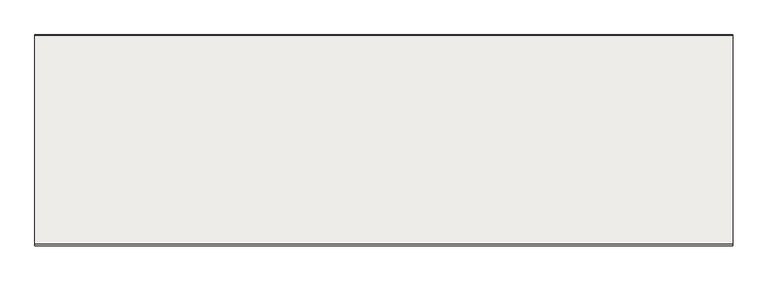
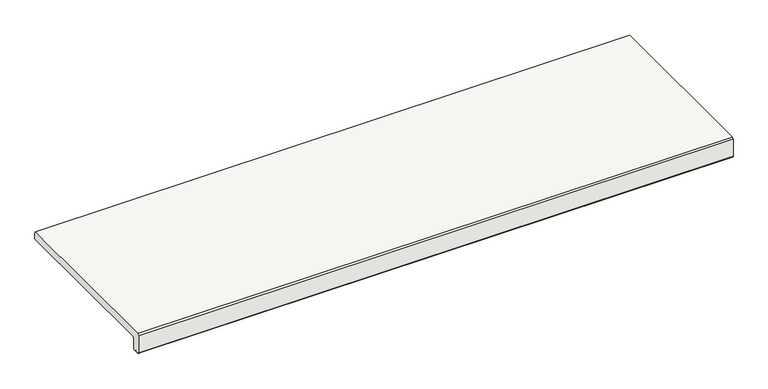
"""IFC4 building model written with IfcOpenShell, lengths in millimetres: slab geometry, ROSA GRES_L62 : Pieza L62_Tao_Beige_Anti-Slip."""

import ifcopenshell
import ifcopenshell.guid

model = None  # the IFC model being written
_history = None  # IfcOwnerHistory: only IFC2X3 demands one
_inside = {}  # id of a spatial element -> (the spatial element, [elements in it])
_under = {}  # id of a project, library or spatial element -> (it, [spatial elements below it])
_declared = {}  # id of a project -> (the project, [libraries it declares])
_typed = {}  # id of a type object -> (the type object, [elements of that type])
_made_of = {}  # id of a material, layer set ... -> (it, [elements and type objects made of it])


def new_model(schema):
    """Start an empty IFC model of exactly this schema.

    Asked for "IFC4X3", IfcOpenShell would pick the latest addendum, in which some entities
    have other attributes; the version numbers below select the first issue.
    IFC2X3 requires an IfcOwnerHistory on every rooted entity: one is made here for all.
    """
    global model, _history
    if schema == "IFC4X3":
        model = ifcopenshell.file(schema_version=(4, 3, 0, 0))
    else:
        model = ifcopenshell.file(schema=schema)
    _inside.clear()
    _under.clear()
    _declared.clear()
    _typed.clear()
    _made_of.clear()
    _history = None
    if model.schema == "IFC2X3":
        org = make("IfcOrganization", Name="unknown")
        user = make(
            "IfcPersonAndOrganization",
            ThePerson=make("IfcPerson", FamilyName="unknown"),
            TheOrganization=org,
        )
        app = make(
            "IfcApplication",
            ApplicationDeveloper=org,
            Version="unknown",
            ApplicationFullName="unknown",
            ApplicationIdentifier="unknown",
        )
        _history = make(
            "IfcOwnerHistory",
            OwningUser=user,
            OwningApplication=app,
            ChangeAction="ADDED",
            CreationDate=0,
        )
    return model


def make(cls, **values):
    """One entity of the class cls with the attributes given. An attribute that is None is left unset."""
    return model.create_entity(
        cls, **{name: value for name, value in values.items() if value is not None}
    )


def rooted(cls, **values):
    """An entity with a GlobalId (a new one), such as an element, a storey or a relation."""
    return make(cls, GlobalId=ifcopenshell.guid.new(), OwnerHistory=_history, **values)


def si_unit(unit_type, name, prefix=None):
    """IfcSIUnit, for example si_unit("LENGTHUNIT", "METRE", prefix="MILLI")."""
    return make("IfcSIUnit", UnitType=unit_type, Prefix=prefix, Name=name)


def assignment(units):
    """IfcUnitAssignment: the units of a project."""
    return None if units is None else make("IfcUnitAssignment", Units=units)


def point(xyz):
    """IfcCartesianPoint."""
    return None if xyz is None else make("IfcCartesianPoint", Coordinates=xyz)


def direction(xyz):
    """IfcDirection."""
    return None if xyz is None else make("IfcDirection", DirectionRatios=xyz)


def frame(location, z_axis=None, x_axis=None):
    """IfcAxis2Placement3D, a coordinate frame: its origin and axes. An axis left out is left unset."""
    return make(
        "IfcAxis2Placement3D",
        Location=point(location),
        Axis=direction(z_axis),
        RefDirection=direction(x_axis),
    )


def frame_2d(location, x_axis=None):
    """IfcAxis2Placement2D, a coordinate frame in the plane: its origin and x axis."""
    return make(
        "IfcAxis2Placement2D", Location=point(location), RefDirection=direction(x_axis)
    )


def origin():
    """The frame at (0, 0, 0) with its axes left unset."""
    return frame((0.0, 0.0, 0.0))


def place(relative_to, where):
    """IfcLocalPlacement: puts the frame where relative to a parent placement (None: the world)."""
    return make(
        "IfcLocalPlacement", PlacementRelTo=relative_to, RelativePlacement=where
    )


def context(
    kind, dimensions, precision=None, world=None, true_north=None, identifier=None
):
    """IfcGeometricRepresentationContext, for example the 3D "Model" context."""
    return make(
        "IfcGeometricRepresentationContext",
        ContextIdentifier=identifier,
        ContextType=kind,
        CoordinateSpaceDimension=dimensions,
        Precision=precision,
        WorldCoordinateSystem=world,
        TrueNorth=true_north,
    )


def project(units=None, contexts=None):
    """IfcProject with its units and contexts."""
    return rooted(
        "IfcProject",
        Name="project",
        RepresentationContexts=contexts,
        UnitsInContext=assignment(units),
    )


def spatial(cls, under=None, at=None, **own):
    """A site, building, storey or space (cls), placed at a placement, below another one or the project."""
    s = rooted(cls, ObjectPlacement=at, **own)
    if under is not None:
        _under.setdefault(under.id(), (under, []))[1].append(s)
    return s


def polyline(points):
    """IfcPolyline through the points."""
    return make("IfcPolyline", Points=[point(p) for p in points])


def circle_curve(where, radius):
    """IfcCircle in the frame where."""
    return make("IfcCircle", Position=where, Radius=radius)


def trimmed(basis, trim1, trim2, sense, master):
    """IfcTrimmedCurve: the piece of a basis curve between two trims."""
    return make(
        "IfcTrimmedCurve",
        BasisCurve=basis,
        Trim1=trim1,
        Trim2=trim2,
        SenseAgreement=sense,
        MasterRepresentation=master,
    )


def segment(curve, same_sense, transition):
    """IfcCompositeCurveSegment."""
    return make(
        "IfcCompositeCurveSegment",
        Transition=transition,
        SameSense=same_sense,
        ParentCurve=curve,
    )


def composite_curve(segments, self_intersect=None):
    """IfcCompositeCurve: segments joined end to end."""
    return make("IfcCompositeCurve", Segments=segments, SelfIntersect=self_intersect)


def outline(outer, holes=None, kind="AREA"):
    """IfcArbitraryClosedProfileDef: a profile drawn as a closed curve; with holes, ...WithVoids."""
    if holes is None:
        return make("IfcArbitraryClosedProfileDef", ProfileType=kind, OuterCurve=outer)
    return make(
        "IfcArbitraryProfileDefWithVoids",
        ProfileType=kind,
        OuterCurve=outer,
        InnerCurves=holes,
    )


def extrude(swept, where, along, depth):
    """IfcExtrudedAreaSolid: the profile swept, set in the frame where, extruded along a direction by depth."""
    return make(
        "IfcExtrudedAreaSolid",
        SweptArea=swept,
        Position=where,
        ExtrudedDirection=direction(along),
        Depth=depth,
    )


def shape(context_of_items, identifier, shape_type, items):
    """IfcShapeRepresentation: the items that make up one representation, for example the "Body"."""
    return make(
        "IfcShapeRepresentation",
        ContextOfItems=context_of_items,
        RepresentationIdentifier=identifier,
        RepresentationType=shape_type,
        Items=items,
    )


def source(mapping_origin, context_of_items, identifier, shape_type, items):
    """IfcRepresentationMap: a shape defined once, which mapped items show again and again."""
    return make(
        "IfcRepresentationMap",
        MappingOrigin=mapping_origin,
        MappedRepresentation=shape(context_of_items, identifier, shape_type, items),
    )


def transform(
    local_origin,
    x_axis=None,
    y_axis=None,
    z_axis=None,
    scale=None,
    scale2=None,
    scale3=None,
    uniform=True,
):
    """IfcCartesianTransformationOperator3D, or its non-uniform kind. x_axis, y_axis, z_axis: its Axis1, 2, 3."""
    if uniform:
        return make(
            "IfcCartesianTransformationOperator3D",
            Axis1=direction(x_axis),
            Axis2=direction(y_axis),
            LocalOrigin=point(local_origin),
            Scale=scale,
            Axis3=direction(z_axis),
        )
    return make(
        "IfcCartesianTransformationOperator3DnonUniform",
        Axis1=direction(x_axis),
        Axis2=direction(y_axis),
        LocalOrigin=point(local_origin),
        Scale=scale,
        Axis3=direction(z_axis),
        Scale2=scale2,
        Scale3=scale3,
    )


def mapped(mapping_source, mapping_target):
    """IfcMappedItem: shows the shape of a source again, moved by a transform."""
    return make(
        "IfcMappedItem", MappingSource=mapping_source, MappingTarget=mapping_target
    )


def made_of(thing, what):
    """Note that an element or type object is made of a material, layer set ...; save() writes the relation."""
    if what is not None:
        _made_of.setdefault(what.id(), (what, []))[1].append(thing)
    return thing


def element(
    cls,
    number,
    at=None,
    inside=None,
    cuts=None,
    type_object=None,
    material=None,
    context=None,
    identifier="Body",
    shape_type=None,
    held_by="IfcProductDefinitionShape",
    body=None,
    shapes=None,
    **own,
):
    """One element of the class cls, such as IfcWall. Its Tag is "e" and its number.

    at: its placement. inside: the storey or other place that contains it. cuts: it is an
    opening in that element (IfcRelVoidsElement). A single representation is given by context,
    identifier, shape_type and body (its items); several are given by shapes. held_by: the class
    of the entity that holds the representations. save() writes the other relations.
    """
    e = rooted(cls, Tag="e%d" % number, ObjectPlacement=at, **own)
    if body is not None:
        shapes = [shape(context, identifier, shape_type, body)]
    if shapes is not None:
        e.Representation = make(held_by, Representations=shapes)
    if inside is not None:
        _inside.setdefault(inside.id(), (inside, []))[1].append(e)
    if cuts is not None:
        rooted(
            "IfcRelVoidsElement", RelatingBuildingElement=cuts, RelatedOpeningElement=e
        )
    if type_object is not None:
        _typed.setdefault(type_object.id(), (type_object, []))[1].append(e)
    return made_of(e, material)


def aggregate(whole, parts):
    """IfcRelAggregates: a whole, such as a stair, and the parts it consists of."""
    return rooted("IfcRelAggregates", RelatingObject=whole, RelatedObjects=parts)


def save(model, path):
    """Write the relations noted so far, then the file.

    IfcRelAggregates (storeys below a building ...), IfcRelContainedInSpatialStructure (elements
    in a storey), IfcRelDefinesByType, IfcRelAssociatesMaterial and IfcRelDeclares: one each for
    every whole, place, type object, material and project.
    """
    for whole, parts in _under.values():
        aggregate(whole, parts)
    for where, things in _inside.values():
        rooted(
            "IfcRelContainedInSpatialStructure",
            RelatedElements=things,
            RelatingStructure=where,
        )
    for kind, things in _typed.values():
        rooted("IfcRelDefinesByType", RelatedObjects=things, RelatingType=kind)
    for what, things in _made_of.values():
        rooted("IfcRelAssociatesMaterial", RelatedObjects=things, RelatingMaterial=what)
    for by, libraries in _declared.values():
        rooted("IfcRelDeclares", RelatingContext=by, RelatedDefinitions=libraries)
    model.write(path)


def slab_1f1ebde0(model_context):
    return source(origin(), model_context, "Body", "SweptSolid", [
        extrude(outline(composite_curve([segment(polyline([(12.1001991, -37.0), (9.4054777, -37.0)]), True, "CONTINUOUS"), segment(trimmed(circle_curve(frame_2d((7.4142134, -37.0)), 1.9912643), [point((9.4054777, -37.0))], [point((5.422949, -37.0))], True, "CARTESIAN"), True, "CONTINUOUS"), segment(polyline([(5.422949, -37.0), (2.5, -37.0)]), True, "CONTINUOUS"), segment(trimmed(circle_curve(frame_2d((2.5, -34.5)), 2.5), [point((2.5, -37.0))], [point((0.0, -34.5))], False, "CARTESIAN"), True, "CONTINUOUS"), segment(polyline([(0.0, -34.5), (0.0, -2.5), (2.5, 0.0), (315.5, 0.0), (317.0, -2.5), (317.0, -12.4648352)]), True, "CONTINUOUS"), segment(trimmed(circle_curve(frame_2d((315.5234432, -12.4648352)), 1.4765568), [point((317.0, -12.4648352))], [point((315.5234432, -13.9413919))], False, "CARTESIAN"), True, "CONTINUOUS"), segment(polyline([(315.5234432, -13.9413919), (16.6422322, -13.9413919)]), True, "CONTINUOUS"), segment(trimmed(circle_curve(frame_2d((16.6422322, -16.5836242)), 2.6422322), [point((16.6422322, -13.9413919))], [point((14.0, -16.5836242))], True, "CARTESIAN"), True, "CONTINUOUS"), segment(polyline([(14.0, -16.5836242), (14.0, -35.1001991)]), True, "CONTINUOUS"), segment(trimmed(circle_curve(frame_2d((12.1001991, -35.1001991)), 1.8998009), [point((14.0, -35.1001991))], [point((12.1001991, -37.0))], False, "CARTESIAN"), True, "CONTINUOUS")], self_intersect=False)), frame((0.0, 0.0, 0.0), z_axis=(1.0, 0.0, 0.0), x_axis=(0.0, 1.0, 0.0)), (0.0, 0.0, 1.0), 1050.3492799),
    ])


if __name__ == "__main__":
    model = new_model("IFC4")
    model_context = context("Model", 3, world=origin())
    ifc_project = project(units=[si_unit("LENGTHUNIT", "METRE", prefix="MILLI")], contexts=[model_context])
    site = spatial("IfcSite", under=ifc_project)
    building = spatial("IfcBuilding", under=site)
    placement = place(None, origin())
    slab_shape = slab_1f1ebde0(model_context)
    element("IfcSlab", 1, ObjectType="ROSA GRES_L62 : Pieza L62_Tao_Beige_Anti-Slip", at=placement, inside=building, context=model_context, shape_type="MappedRepresentation", body=[
        mapped(slab_shape, transform((0.0, 0.0, 0.0), x_axis=(1.0, 0.0, 0.0), y_axis=(0.0, 1.0, 0.0), z_axis=(0.0, 0.0, 1.0))),
    ])
    save(model, "model.ifc")
